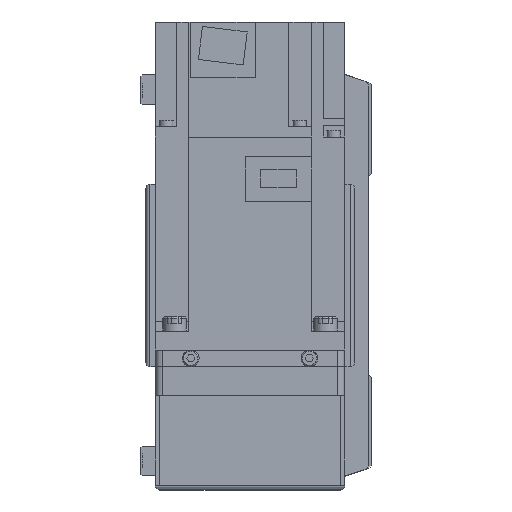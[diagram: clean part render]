
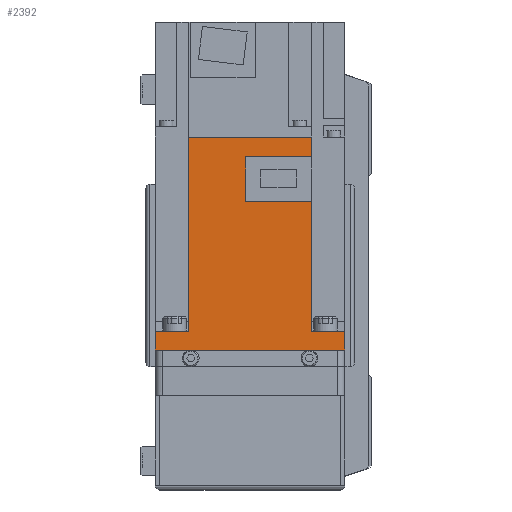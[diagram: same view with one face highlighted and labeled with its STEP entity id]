
A CAD part, left-side view. The second image highlights one B-rep face of the part: STEP entity #2392.
In plain terms, the highlighted planar face has unit normal (-1, 0, 0) as drawn and (1, 0, 0) by its records, which use the part's own axes.
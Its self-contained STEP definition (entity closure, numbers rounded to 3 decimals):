
#2392 = ADVANCED_FACE( '', ( #5310 ), #5311, .F. );
#5310 = FACE_OUTER_BOUND( '', #8742, .T. );
#5311 = PLANE( '', #8743 );
#8742 = EDGE_LOOP( '', ( #15588, #15589, #15590, #15591, #15592, #15593, #15594, #15595, #15596, #15597, #15598, #15599 ) );
#8743 = AXIS2_PLACEMENT_3D( '', #15600, #15601, #15602 );
#15588 = ORIENTED_EDGE( '', *, *, #20556, .F. );
#15589 = ORIENTED_EDGE( '', *, *, #21935, .F. );
#15590 = ORIENTED_EDGE( '', *, *, #22165, .F. );
#15591 = ORIENTED_EDGE( '', *, *, #22166, .T. );
#15592 = ORIENTED_EDGE( '', *, *, #21508, .F. );
#15593 = ORIENTED_EDGE( '', *, *, #20172, .T. );
#15594 = ORIENTED_EDGE( '', *, *, #20858, .T. );
#15595 = ORIENTED_EDGE( '', *, *, #20912, .F. );
#15596 = ORIENTED_EDGE( '', *, *, #21633, .F. );
#15597 = ORIENTED_EDGE( '', *, *, #21937, .F. );
#15598 = ORIENTED_EDGE( '', *, *, #19739, .F. );
#15599 = ORIENTED_EDGE( '', *, *, #21066, .F. );
#15600 = CARTESIAN_POINT( '', ( 40., 89.8, 40. ) );
#15601 = DIRECTION( '', ( -1., 0., 0. ) );
#15602 = DIRECTION( '', ( 0., 0., 1. ) );
#19739 = EDGE_CURVE( '', #23559, #23560, #23561, .T. );
#20172 = EDGE_CURVE( '', #24325, #24323, #24326, .T. );
#20556 = EDGE_CURVE( '', #24960, #24962, #24963, .T. );
#20858 = EDGE_CURVE( '', #24323, #25453, #25455, .T. );
#20912 = EDGE_CURVE( '', #25538, #25453, #25540, .T. );
#21066 = EDGE_CURVE( '', #24962, #23559, #25771, .T. );
#21508 = EDGE_CURVE( '', #24325, #26440, #26441, .T. );
#21633 = EDGE_CURVE( '', #26621, #25538, #26622, .T. );
#21935 = EDGE_CURVE( '', #27057, #24960, #27059, .T. );
#21937 = EDGE_CURVE( '', #23560, #26621, #27061, .T. );
#22165 = EDGE_CURVE( '', #27373, #27057, #27374, .T. );
#22166 = EDGE_CURVE( '', #27373, #26440, #27375, .T. );
#23559 = VERTEX_POINT( '', #29072 );
#23560 = VERTEX_POINT( '', #29073 );
#23561 = LINE( '', #29074, #29075 );
#24323 = VERTEX_POINT( '', #30215 );
#24325 = VERTEX_POINT( '', #30218 );
#24326 = LINE( '', #30219, #30220 );
#24960 = VERTEX_POINT( '', #31145 );
#24962 = VERTEX_POINT( '', #31148 );
#24963 = LINE( '', #31149, #31150 );
#25453 = VERTEX_POINT( '', #32021 );
#25455 = LINE( '', #32024, #32025 );
#25538 = VERTEX_POINT( '', #32151 );
#25540 = LINE( '', #32154, #32155 );
#25771 = LINE( '', #32528, #32529 );
#26440 = VERTEX_POINT( '', #33483 );
#26441 = LINE( '', #33484, #33485 );
#26621 = VERTEX_POINT( '', #33745 );
#26622 = LINE( '', #33746, #33747 );
#27057 = VERTEX_POINT( '', #34542 );
#27059 = LINE( '', #34545, #34546 );
#27061 = LINE( '', #34549, #34550 );
#27373 = VERTEX_POINT( '', #35038 );
#27374 = LINE( '', #35039, #35040 );
#27375 = LINE( '', #35041, #35042 );
#29072 = CARTESIAN_POINT( '', ( 40., 62.8, 1.8 ) );
#29073 = CARTESIAN_POINT( '', ( 40., 62.8, -25.95 ) );
#29074 = CARTESIAN_POINT( '', ( 40., 62.8, 1.8 ) );
#29075 = VECTOR( '', #36798, 1000. );
#30215 = CARTESIAN_POINT( '', ( 40., 0., 40. ) );
#30218 = CARTESIAN_POINT( '', ( 40., 8., 40. ) );
#30219 = CARTESIAN_POINT( '', ( 40., 89.8, 40. ) );
#30220 = VECTOR( '', #37405, 1000. );
#31145 = CARTESIAN_POINT( '', ( 40., 81.4, -25.95 ) );
#31148 = CARTESIAN_POINT( '', ( 40., 81.4, 1.8 ) );
#31149 = CARTESIAN_POINT( '', ( 40., 81.4, -26. ) );
#31150 = VECTOR( '', #37901, 1000. );
#32021 = CARTESIAN_POINT( '', ( 40., 0., -40. ) );
#32024 = CARTESIAN_POINT( '', ( 40., 0., 40. ) );
#32025 = VECTOR( '', #38285, 1000. );
#32151 = CARTESIAN_POINT( '', ( 40., 8., -40. ) );
#32154 = CARTESIAN_POINT( '', ( 40., 89.8, -40. ) );
#32155 = VECTOR( '', #38340, 1000. );
#32528 = CARTESIAN_POINT( '', ( 40., 81.4, 1.8 ) );
#32529 = VECTOR( '', #38515, 1000. );
#33483 = CARTESIAN_POINT( '', ( 40., 8., 25.95 ) );
#33484 = CARTESIAN_POINT( '', ( 40., 8., 40. ) );
#33485 = VECTOR( '', #39027, 1000. );
#33745 = CARTESIAN_POINT( '', ( 40., 8., -25.95 ) );
#33746 = CARTESIAN_POINT( '', ( 40., 8., 40. ) );
#33747 = VECTOR( '', #39184, 1000. );
#34542 = CARTESIAN_POINT( '', ( 40., 89.8, -25.95 ) );
#34545 = CARTESIAN_POINT( '', ( 40., 158., -25.95 ) );
#34546 = VECTOR( '', #39583, 1000. );
#34549 = CARTESIAN_POINT( '', ( 40., 158., -25.95 ) );
#34550 = VECTOR( '', #39585, 1000. );
#35038 = CARTESIAN_POINT( '', ( 40., 89.8, 25.95 ) );
#35039 = CARTESIAN_POINT( '', ( 40., 89.8, 40. ) );
#35040 = VECTOR( '', #39809, 1000. );
#35041 = CARTESIAN_POINT( '', ( 40., 158., 25.95 ) );
#35042 = VECTOR( '', #39810, 1000. );
#36798 = DIRECTION( '', ( 0., 0., -1. ) );
#37405 = DIRECTION( '', ( 0., -1., 0. ) );
#37901 = DIRECTION( '', ( 0., 0., 1. ) );
#38285 = DIRECTION( '', ( 0., 0., -1. ) );
#38340 = DIRECTION( '', ( 0., -1., 0. ) );
#38515 = DIRECTION( '', ( 0., -1., 0. ) );
#39027 = DIRECTION( '', ( 0., 0., -1. ) );
#39184 = DIRECTION( '', ( 0., 0., -1. ) );
#39583 = DIRECTION( '', ( 0., -1., 0. ) );
#39585 = DIRECTION( '', ( 0., -1., 0. ) );
#39809 = DIRECTION( '', ( 0., 0., -1. ) );
#39810 = DIRECTION( '', ( 0., -1., 0. ) );
